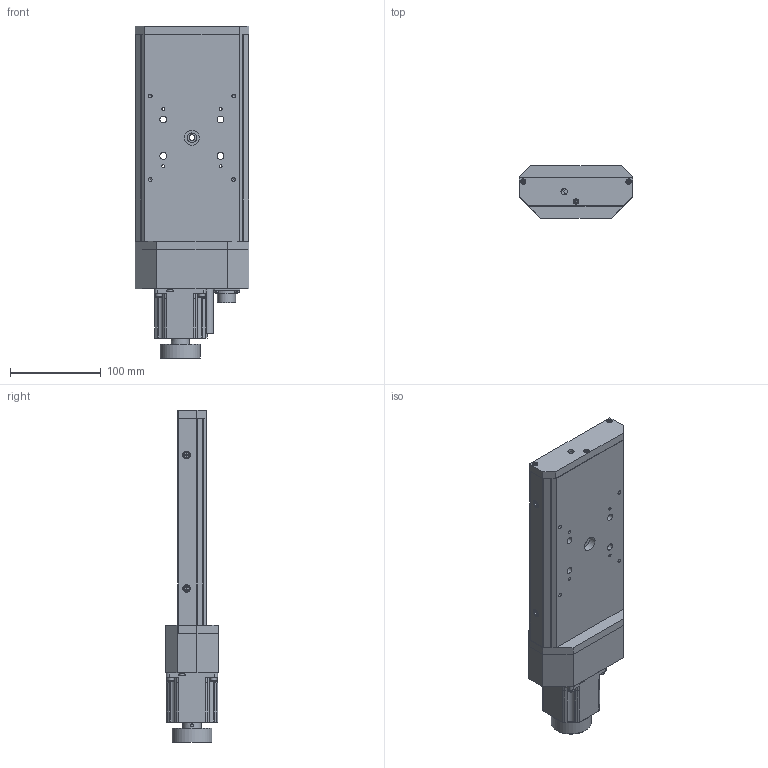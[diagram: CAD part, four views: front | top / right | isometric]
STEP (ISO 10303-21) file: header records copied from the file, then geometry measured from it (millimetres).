
FILE_DESCRIPTION((''),'2;1');
FILE_NAME('C:\Axmo\Axmo autodesk\Designs\Standard\1153 tmf\TMF3-100.stp','2011-09-13T16:14:03',('AXMOBE'),(''),'Autodesk Inventor 2011','Autodesk Inventor 2011','');
FILE_SCHEMA(('AUTOMOTIVE_DESIGN { 1 2 10303 214 0 1 1 1 }'));
Length unit declared in the file: millimetre
Products named in the file (1): 1153 03 ENS 000-100_Enveloppe_1
Bounding box: 125.1 x 58 x 365.5 mm (x, y, z)
Volume: 1020251.3 mm3; surface area: 294180.8 mm2
Topology: 1 solids, 68 shells, 1876 faces, 4602 edges, 2967 vertices
Faces by surface type: plane 1076, cylinder 480, cone 175, torus 77, bspline 52, sphere 16
Full cylindrical faces by diameter (mm): 1 x10, 1.567 x2, 2.013 x22, 2.1 x2, 2.25 x2, 2.459 x65, 2.5 x2, 2.693 x4, 2.8 x2, 3 x25, 3.242 x39, 3.5 x16, 4 x8, 4.134 x4, 4.5 x1, 4.917 x8, 5 x5, 5.5 x18, 5.54 x4, 6 x34, 6.2 x1, 6.35 x3, 6.459 x2, 6.5 x1, 7 x14, 7.5 x16, 8 x2, 9 x1, 10 x4, 10.5 x1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
Entity records: 53228 total; most frequent: CARTESIAN_POINT 11508, DIRECTION 8158, ORIENTED_EDGE 7400, EDGE_CURVE 3700, AXIS2_PLACEMENT_3D 3049, EDGE_LOOP 2710, VERTEX_POINT 2646, VECTOR 2060
